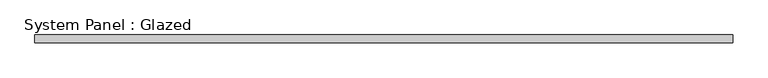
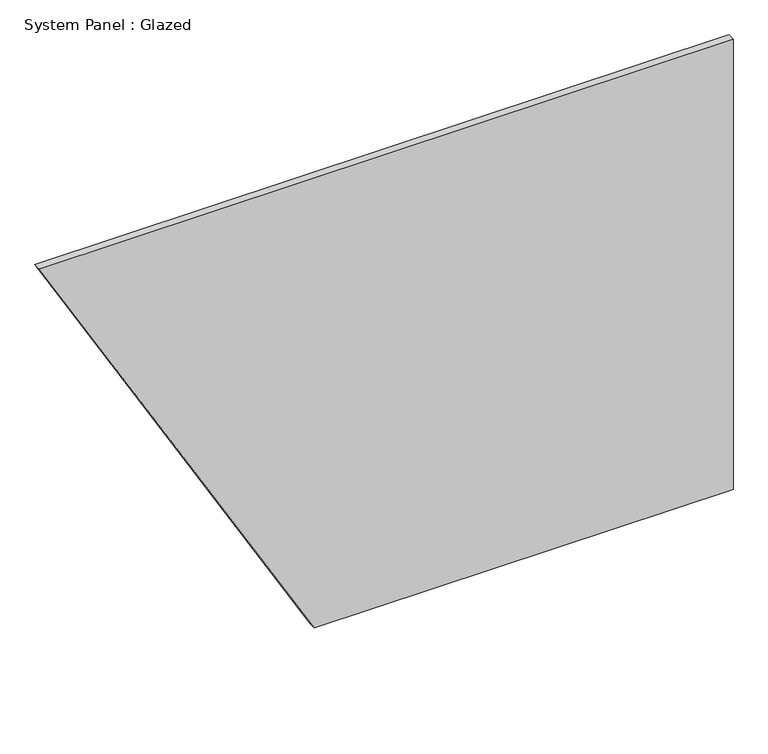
"""IFC4 building model written with IfcOpenShell, lengths in millimetres: plate geometry, System Panel : Glazed."""

from ifc_helpers import new_model, si_unit, frame, origin, place, context, project, spatial, polyline, outline, extrude, source, transform, mapped, element, save


def system_panel_glazed_29dc0488(model_context):
    return source(origin(), model_context, "Body", "SweptSolid", [
        extrude(outline(polyline([(0.0, -230.7070579), (0.0, 1110.5888682), (1524.0, 1110.5888682), (1524.0, -1110.5888682), (0.0, -230.7070579)])), frame((0.0, 19.05, 0.0), z_axis=(0.0, 1.0, 0.0), x_axis=(0.0, 0.0, 1.0)), (0.0, 0.0, 1.0), 25.4),
    ])


if __name__ == "__main__":
    model = new_model("IFC4")
    model_context = context("Model", 3, world=origin())
    ifc_project = project(units=[si_unit("LENGTHUNIT", "METRE", prefix="MILLI")], contexts=[model_context])
    site = spatial("IfcSite", under=ifc_project)
    building = spatial("IfcBuilding", under=site)
    placement = place(None, origin())
    system_panel_glazed_shape = system_panel_glazed_29dc0488(model_context)
    element("IfcPlate", 1, ObjectType="System Panel : Glazed", at=placement, inside=building, context=model_context, shape_type="MappedRepresentation", body=[
        mapped(system_panel_glazed_shape, transform((0.0, 0.0, 0.0), x_axis=(1.0, 0.0, 0.0), y_axis=(0.0, 1.0, 0.0), z_axis=(0.0, 0.0, 1.0))),
    ])
    save(model, "model.ifc")
